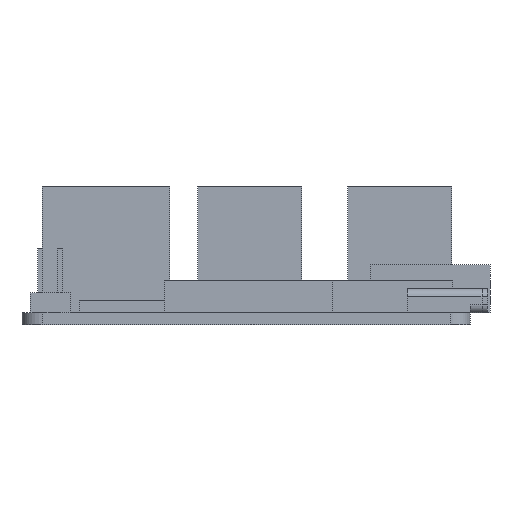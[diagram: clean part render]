
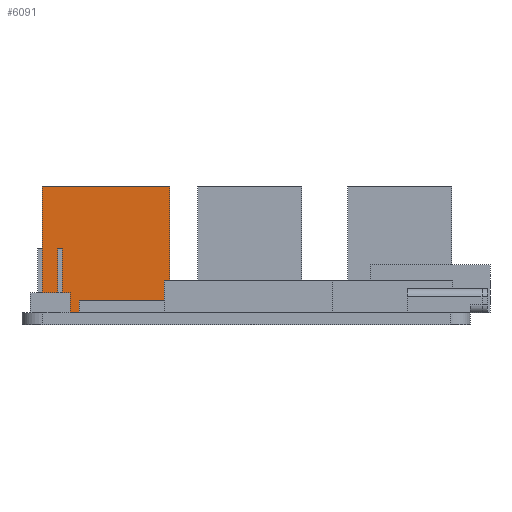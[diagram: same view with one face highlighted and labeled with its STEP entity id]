
A CAD part, front view. The second image highlights one B-rep face of the part: STEP entity #6091.
In plain terms, the highlighted planar face has unit normal (0, -1, 0).
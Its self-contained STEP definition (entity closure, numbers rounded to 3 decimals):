
#406=PLANE('',#6476);
#731=FACE_OUTER_BOUND('',#1105,.T.);
#1105=EDGE_LOOP('',(#5493,#5494,#5495,#5496));
#1865=LINE('',#9623,#2638);
#1867=LINE('',#9627,#2640);
#1868=LINE('',#9629,#2641);
#1869=LINE('',#9630,#2642);
#2638=VECTOR('',#7912,10.);
#2640=VECTOR('',#7916,10.);
#2641=VECTOR('',#7917,10.);
#2642=VECTOR('',#7918,10.);
#3204=VERTEX_POINT('',#9620);
#3205=VERTEX_POINT('',#9622);
#3206=VERTEX_POINT('',#9626);
#3207=VERTEX_POINT('',#9628);
#3998=EDGE_CURVE('',#3205,#3204,#1865,.T.);
#4000=EDGE_CURVE('',#3205,#3206,#1867,.T.);
#4001=EDGE_CURVE('',#3207,#3204,#1868,.T.);
#4002=EDGE_CURVE('',#3206,#3207,#1869,.T.);
#5493=ORIENTED_EDGE('',*,*,#4000,.F.);
#5494=ORIENTED_EDGE('',*,*,#3998,.T.);
#5495=ORIENTED_EDGE('',*,*,#4001,.F.);
#5496=ORIENTED_EDGE('',*,*,#4002,.F.);
#6091=ADVANCED_FACE('',(#731),#406,.T.);
#6476=AXIS2_PLACEMENT_3D('',#9625,#7914,#7915);
#7912=DIRECTION('',(0.,0.,1.));
#7914=DIRECTION('center_axis',(0.,-1.,0.));
#7915=DIRECTION('ref_axis',(1.,0.,0.));
#7916=DIRECTION('',(-1.,0.,0.));
#7917=DIRECTION('',(1.,0.,0.));
#7918=DIRECTION('',(0.,0.,1.));
#9620=CARTESIAN_POINT('',(-9.5,24.2,17.25));
#9622=CARTESIAN_POINT('',(-9.5,24.2,1.5));
#9623=CARTESIAN_POINT('',(-9.5,24.2,1.5));
#9625=CARTESIAN_POINT('Origin',(-25.5,24.2,1.5));
#9626=CARTESIAN_POINT('',(-25.5,24.2,1.5));
#9627=CARTESIAN_POINT('',(-12.75,24.2,1.5));
#9628=CARTESIAN_POINT('',(-25.5,24.2,17.25));
#9629=CARTESIAN_POINT('',(-9.5,24.2,17.25));
#9630=CARTESIAN_POINT('',(-25.5,24.2,1.5));
